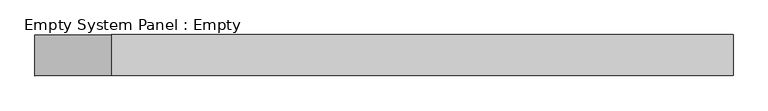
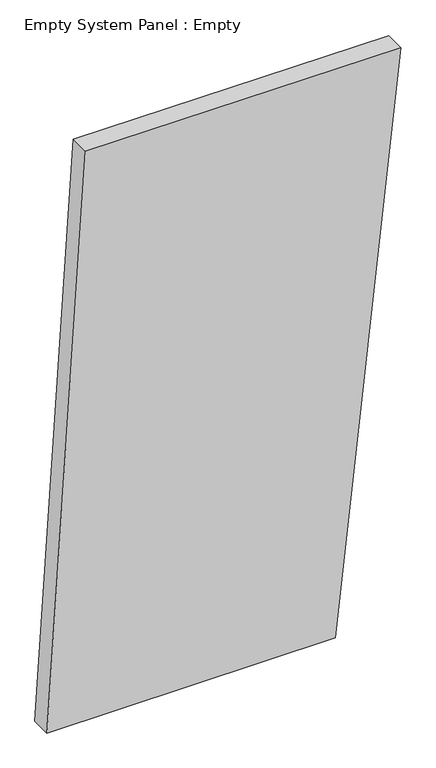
"""IFC4 building model written with IfcOpenShell, lengths in millimetres: plate geometry, Empty System Panel : Empty."""

import ifcopenshell
import ifcopenshell.guid

model = None  # the IFC model being written
_history = None  # IfcOwnerHistory: only IFC2X3 demands one
_inside = {}  # id of a spatial element -> (the spatial element, [elements in it])
_under = {}  # id of a project, library or spatial element -> (it, [spatial elements below it])
_declared = {}  # id of a project -> (the project, [libraries it declares])
_typed = {}  # id of a type object -> (the type object, [elements of that type])
_made_of = {}  # id of a material, layer set ... -> (it, [elements and type objects made of it])


def new_model(schema):
    """Start an empty IFC model of exactly this schema.

    Asked for "IFC4X3", IfcOpenShell would pick the latest addendum, in which some entities
    have other attributes; the version numbers below select the first issue.
    IFC2X3 requires an IfcOwnerHistory on every rooted entity: one is made here for all.
    """
    global model, _history
    if schema == "IFC4X3":
        model = ifcopenshell.file(schema_version=(4, 3, 0, 0))
    else:
        model = ifcopenshell.file(schema=schema)
    _inside.clear()
    _under.clear()
    _declared.clear()
    _typed.clear()
    _made_of.clear()
    _history = None
    if model.schema == "IFC2X3":
        org = make("IfcOrganization", Name="unknown")
        user = make(
            "IfcPersonAndOrganization",
            ThePerson=make("IfcPerson", FamilyName="unknown"),
            TheOrganization=org,
        )
        app = make(
            "IfcApplication",
            ApplicationDeveloper=org,
            Version="unknown",
            ApplicationFullName="unknown",
            ApplicationIdentifier="unknown",
        )
        _history = make(
            "IfcOwnerHistory",
            OwningUser=user,
            OwningApplication=app,
            ChangeAction="ADDED",
            CreationDate=0,
        )
    return model


def make(cls, **values):
    """One entity of the class cls with the attributes given. An attribute that is None is left unset."""
    return model.create_entity(
        cls, **{name: value for name, value in values.items() if value is not None}
    )


def rooted(cls, **values):
    """An entity with a GlobalId (a new one), such as an element, a storey or a relation."""
    return make(cls, GlobalId=ifcopenshell.guid.new(), OwnerHistory=_history, **values)


def si_unit(unit_type, name, prefix=None):
    """IfcSIUnit, for example si_unit("LENGTHUNIT", "METRE", prefix="MILLI")."""
    return make("IfcSIUnit", UnitType=unit_type, Prefix=prefix, Name=name)


def assignment(units):
    """IfcUnitAssignment: the units of a project."""
    return None if units is None else make("IfcUnitAssignment", Units=units)


def point(xyz):
    """IfcCartesianPoint."""
    return None if xyz is None else make("IfcCartesianPoint", Coordinates=xyz)


def direction(xyz):
    """IfcDirection."""
    return None if xyz is None else make("IfcDirection", DirectionRatios=xyz)


def frame(location, z_axis=None, x_axis=None):
    """IfcAxis2Placement3D, a coordinate frame: its origin and axes. An axis left out is left unset."""
    return make(
        "IfcAxis2Placement3D",
        Location=point(location),
        Axis=direction(z_axis),
        RefDirection=direction(x_axis),
    )


def origin():
    """The frame at (0, 0, 0) with its axes left unset."""
    return frame((0.0, 0.0, 0.0))


def place(relative_to, where):
    """IfcLocalPlacement: puts the frame where relative to a parent placement (None: the world)."""
    return make(
        "IfcLocalPlacement", PlacementRelTo=relative_to, RelativePlacement=where
    )


def context(
    kind, dimensions, precision=None, world=None, true_north=None, identifier=None
):
    """IfcGeometricRepresentationContext, for example the 3D "Model" context."""
    return make(
        "IfcGeometricRepresentationContext",
        ContextIdentifier=identifier,
        ContextType=kind,
        CoordinateSpaceDimension=dimensions,
        Precision=precision,
        WorldCoordinateSystem=world,
        TrueNorth=true_north,
    )


def project(units=None, contexts=None):
    """IfcProject with its units and contexts."""
    return rooted(
        "IfcProject",
        Name="project",
        RepresentationContexts=contexts,
        UnitsInContext=assignment(units),
    )


def spatial(cls, under=None, at=None, **own):
    """A site, building, storey or space (cls), placed at a placement, below another one or the project."""
    s = rooted(cls, ObjectPlacement=at, **own)
    if under is not None:
        _under.setdefault(under.id(), (under, []))[1].append(s)
    return s


def polyline(points):
    """IfcPolyline through the points."""
    return make("IfcPolyline", Points=[point(p) for p in points])


def outline(outer, holes=None, kind="AREA"):
    """IfcArbitraryClosedProfileDef: a profile drawn as a closed curve; with holes, ...WithVoids."""
    if holes is None:
        return make("IfcArbitraryClosedProfileDef", ProfileType=kind, OuterCurve=outer)
    return make(
        "IfcArbitraryProfileDefWithVoids",
        ProfileType=kind,
        OuterCurve=outer,
        InnerCurves=holes,
    )


def extrude(swept, where, along, depth):
    """IfcExtrudedAreaSolid: the profile swept, set in the frame where, extruded along a direction by depth."""
    return make(
        "IfcExtrudedAreaSolid",
        SweptArea=swept,
        Position=where,
        ExtrudedDirection=direction(along),
        Depth=depth,
    )


def shape(context_of_items, identifier, shape_type, items):
    """IfcShapeRepresentation: the items that make up one representation, for example the "Body"."""
    return make(
        "IfcShapeRepresentation",
        ContextOfItems=context_of_items,
        RepresentationIdentifier=identifier,
        RepresentationType=shape_type,
        Items=items,
    )


def source(mapping_origin, context_of_items, identifier, shape_type, items):
    """IfcRepresentationMap: a shape defined once, which mapped items show again and again."""
    return make(
        "IfcRepresentationMap",
        MappingOrigin=mapping_origin,
        MappedRepresentation=shape(context_of_items, identifier, shape_type, items),
    )


def transform(
    local_origin,
    x_axis=None,
    y_axis=None,
    z_axis=None,
    scale=None,
    scale2=None,
    scale3=None,
    uniform=True,
):
    """IfcCartesianTransformationOperator3D, or its non-uniform kind. x_axis, y_axis, z_axis: its Axis1, 2, 3."""
    if uniform:
        return make(
            "IfcCartesianTransformationOperator3D",
            Axis1=direction(x_axis),
            Axis2=direction(y_axis),
            LocalOrigin=point(local_origin),
            Scale=scale,
            Axis3=direction(z_axis),
        )
    return make(
        "IfcCartesianTransformationOperator3DnonUniform",
        Axis1=direction(x_axis),
        Axis2=direction(y_axis),
        LocalOrigin=point(local_origin),
        Scale=scale,
        Axis3=direction(z_axis),
        Scale2=scale2,
        Scale3=scale3,
    )


def mapped(mapping_source, mapping_target):
    """IfcMappedItem: shows the shape of a source again, moved by a transform."""
    return make(
        "IfcMappedItem", MappingSource=mapping_source, MappingTarget=mapping_target
    )


def made_of(thing, what):
    """Note that an element or type object is made of a material, layer set ...; save() writes the relation."""
    if what is not None:
        _made_of.setdefault(what.id(), (what, []))[1].append(thing)
    return thing


def element(
    cls,
    number,
    at=None,
    inside=None,
    cuts=None,
    type_object=None,
    material=None,
    context=None,
    identifier="Body",
    shape_type=None,
    held_by="IfcProductDefinitionShape",
    body=None,
    shapes=None,
    **own,
):
    """One element of the class cls, such as IfcWall. Its Tag is "e" and its number.

    at: its placement. inside: the storey or other place that contains it. cuts: it is an
    opening in that element (IfcRelVoidsElement). A single representation is given by context,
    identifier, shape_type and body (its items); several are given by shapes. held_by: the class
    of the entity that holds the representations. save() writes the other relations.
    """
    e = rooted(cls, Tag="e%d" % number, ObjectPlacement=at, **own)
    if body is not None:
        shapes = [shape(context, identifier, shape_type, body)]
    if shapes is not None:
        e.Representation = make(held_by, Representations=shapes)
    if inside is not None:
        _inside.setdefault(inside.id(), (inside, []))[1].append(e)
    if cuts is not None:
        rooted(
            "IfcRelVoidsElement", RelatingBuildingElement=cuts, RelatedOpeningElement=e
        )
    if type_object is not None:
        _typed.setdefault(type_object.id(), (type_object, []))[1].append(e)
    return made_of(e, material)


def aggregate(whole, parts):
    """IfcRelAggregates: a whole, such as a stair, and the parts it consists of."""
    return rooted("IfcRelAggregates", RelatingObject=whole, RelatedObjects=parts)


def save(model, path):
    """Write the relations noted so far, then the file.

    IfcRelAggregates (storeys below a building ...), IfcRelContainedInSpatialStructure (elements
    in a storey), IfcRelDefinesByType, IfcRelAssociatesMaterial and IfcRelDeclares: one each for
    every whole, place, type object, material and project.
    """
    for whole, parts in _under.values():
        aggregate(whole, parts)
    for where, things in _inside.values():
        rooted(
            "IfcRelContainedInSpatialStructure",
            RelatedElements=things,
            RelatingStructure=where,
        )
    for kind, things in _typed.values():
        rooted("IfcRelDefinesByType", RelatedObjects=things, RelatingType=kind)
    for what, things in _made_of.values():
        rooted("IfcRelAssociatesMaterial", RelatedObjects=things, RelatingMaterial=what)
    for by, libraries in _declared.values():
        rooted("IfcRelDeclares", RelatingContext=by, RelatedDefinitions=libraries)
    model.write(path)


def empty_system_panel_empty_04f20b65(model_context):
    return source(origin(), model_context, "Body", "SweptSolid", [
        extrude(outline(polyline([(0.0, -864.3420745), (0.0, 545.3678402), (2934.1845598, 864.3420745), (2939.3332012, -675.9364614), (0.0, -864.3420745)])), frame((0.0, -50.8, 0.0), z_axis=(0.0, 1.0, 0.0), x_axis=(0.0, 0.0, 1.0)), (0.0, 0.0, 1.0), 101.6),
    ])


if __name__ == "__main__":
    model = new_model("IFC4")
    model_context = context("Model", 3, world=origin())
    ifc_project = project(units=[si_unit("LENGTHUNIT", "METRE", prefix="MILLI")], contexts=[model_context])
    site = spatial("IfcSite", under=ifc_project)
    building = spatial("IfcBuilding", under=site)
    placement = place(None, origin())
    empty_system_panel_empty_shape = empty_system_panel_empty_04f20b65(model_context)
    element("IfcPlate", 1, ObjectType="Empty System Panel : Empty", at=placement, inside=building, context=model_context, shape_type="MappedRepresentation", body=[
        mapped(empty_system_panel_empty_shape, transform((0.0, 0.0, 0.0), x_axis=(1.0, 0.0, 0.0), y_axis=(0.0, 1.0, 0.0), z_axis=(0.0, 0.0, 1.0))),
    ])
    save(model, "model.ifc")
